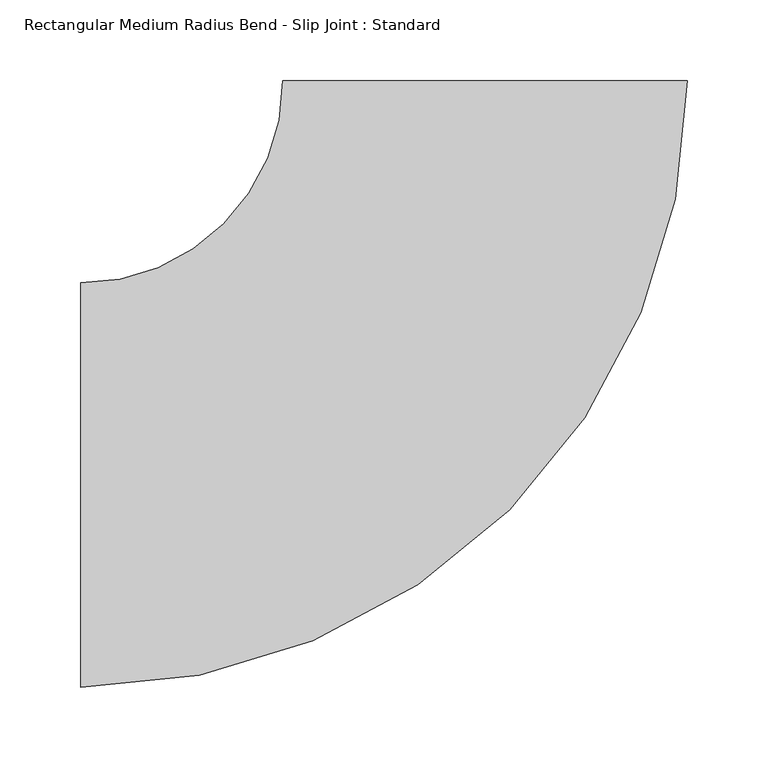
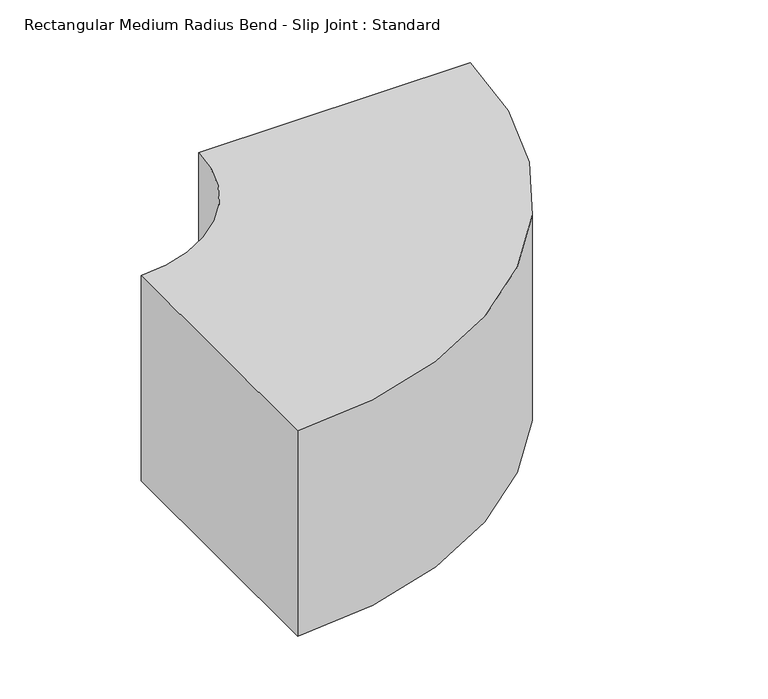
"""IFC4 building model written with IfcOpenShell, lengths in millimetres: duct fitting geometry, Rectangular Medium Radius Bend - Slip Joint : Standard."""

from ifc_helpers import new_model, si_unit, point, frame, frame_2d, origin, place, context, project, spatial, polyline, circle_curve, trimmed, segment, composite_curve, outline, extrude, source, transform, mapped, element, save


def rectangular_medium_radius_bend_slip_joint_standard_1b082aae(model_context):
    return source(origin(), model_context, "Body", "SweptSolid", [
        extrude(outline(composite_curve([segment(trimmed(circle_curve(frame_2d((-250.0, 250.0)), 375.0), [point((125.0, 250.0))], [point((-250.0, -125.0))], False, "CARTESIAN"), True, "CONTINUOUS"), segment(polyline([(-250.0, -125.0), (-250.0, 125.0)]), True, "CONTINUOUS"), segment(trimmed(circle_curve(frame_2d((-250.0, 250.0)), 125.0), [point((-250.0, 125.0))], [point((-125.0, 250.0))], True, "CARTESIAN"), True, "CONTINUOUS"), segment(polyline([(-125.0, 250.0), (125.0, 250.0)]), True, "CONTINUOUS")], self_intersect=False)), frame((0.0, 0.0, -100.0), z_axis=(0.0, 0.0, 1.0), x_axis=(1.0, 0.0, 0.0)), (0.0, 0.0, 1.0), 200.0),
    ])


if __name__ == "__main__":
    model = new_model("IFC4")
    model_context = context("Model", 3, world=origin())
    ifc_project = project(units=[si_unit("LENGTHUNIT", "METRE", prefix="MILLI")], contexts=[model_context])
    site = spatial("IfcSite", under=ifc_project)
    building = spatial("IfcBuilding", under=site)
    placement = place(None, origin())
    rectangular_medium_radius_bend_slip_joint_standard_shape = rectangular_medium_radius_bend_slip_joint_standard_1b082aae(model_context)
    element("IfcDuctFitting", 1, ObjectType="Rectangular Medium Radius Bend - Slip Joint : Standard", at=placement, inside=building, context=model_context, shape_type="MappedRepresentation", body=[
        mapped(rectangular_medium_radius_bend_slip_joint_standard_shape, transform((0.0, 0.0, 0.0), x_axis=(1.0, 0.0, 0.0), y_axis=(0.0, 1.0, 0.0), z_axis=(0.0, 0.0, 1.0))),
    ])
    save(model, "model.ifc")
